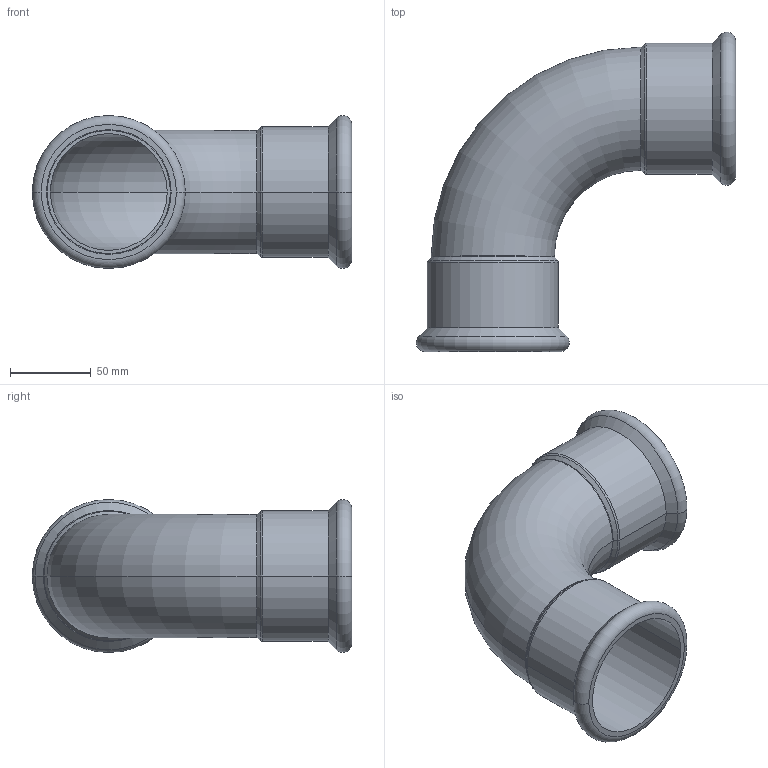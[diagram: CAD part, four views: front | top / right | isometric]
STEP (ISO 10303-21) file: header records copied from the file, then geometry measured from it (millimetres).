
FILE_DESCRIPTION(('CoCreate Modeling STEP Export'),'2;1');
FILE_NAME('C1408 76.1x76.1.stp','2014-11-07T16:46:34',(''),(''),'CoCreate Modeling STEP processor for AP214 (Solid Model)','CoCreate Modeling 17.00A 17-Jun-2010 (C) Parametric Technology GmbH','');
FILE_SCHEMA(('AUTOMOTIVE_DESIGN { 1 0 10303 214 1 1 1 1 }'));
Length unit declared in the file: millimetre
Products named in the file (2): C1408_76x76
Assembly tree (1 placements, depth 2):
  C1408_76x76
    C1408_76x76
Bounding box: 197.24 x 197.24 x 94.48 mm (x, y, z)
Volume: 163190.9 mm3; surface area: 132579.5 mm2
Topology: 1 solids, 1 shells, 46 faces, 97 edges, 57 vertices
Faces by surface type: cylinder 20, torus 12, cone 8, plane 6
Entity records: 1050 total; most frequent: ORIENTED_EDGE 194, DIRECTION 164, CARTESIAN_POINT 153, EDGE_CURVE 97, AXIS2_PLACEMENT_3D 68, VERTEX_POINT 57, EDGE_LOOP 52, FACE_OUTER_BOUND 46
